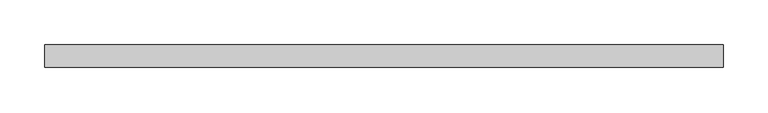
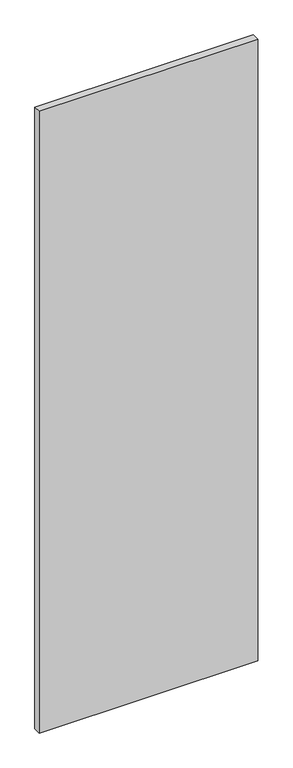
"""IFC4 building model written with IfcOpenShell, lengths in millimetres: plate geometry, 系统嵌板 : 玻璃."""

from ifc_helpers import new_model, si_unit, origin, origin_with_axes, place, context, project, spatial, polyline, outline, extrude, source, transform, mapped, element, save


def plate_2453c80b(model_context):
    return source(origin(), model_context, "Body", "SweptSolid", [
        extrude(outline(polyline([(377.5, -12.5), (-377.5, -12.5), (-377.5, 12.5), (377.5, 12.5), (377.5, -12.5)])), origin_with_axes(), (0.0, 0.0, 1.0), 2270.0),
    ])


if __name__ == "__main__":
    model = new_model("IFC4")
    model_context = context("Model", 3, world=origin())
    ifc_project = project(units=[si_unit("LENGTHUNIT", "METRE", prefix="MILLI")], contexts=[model_context])
    site = spatial("IfcSite", under=ifc_project)
    building = spatial("IfcBuilding", under=site)
    placement = place(None, origin())
    plate_shape = plate_2453c80b(model_context)
    element("IfcPlate", 1, ObjectType="系统嵌板 : 玻璃", at=placement, inside=building, context=model_context, shape_type="MappedRepresentation", body=[
        mapped(plate_shape, transform((0.0, 0.0, 0.0), x_axis=(1.0, 0.0, 0.0), y_axis=(0.0, 1.0, 0.0), z_axis=(0.0, 0.0, 1.0))),
    ])
    save(model, "model.ifc")
